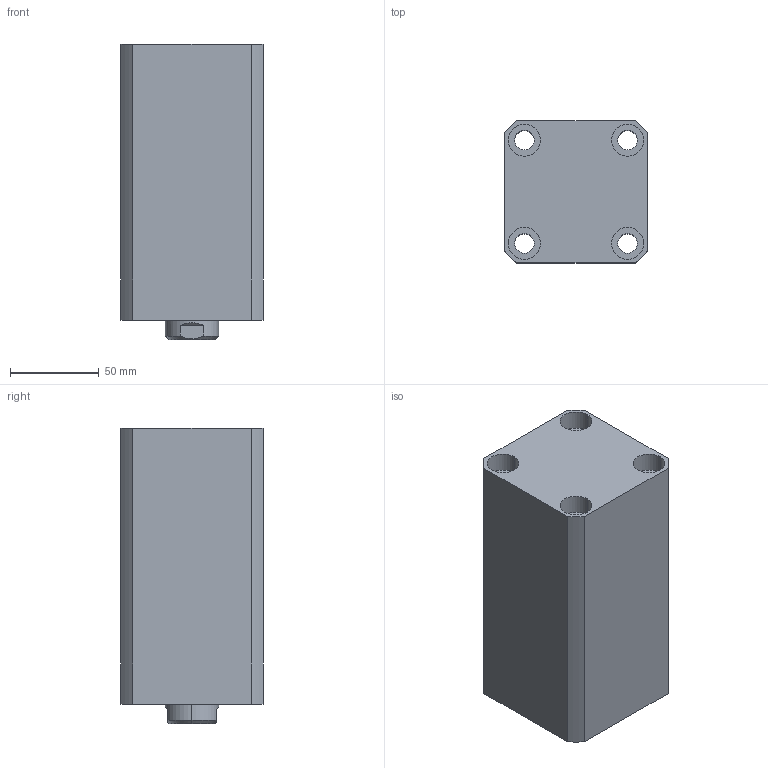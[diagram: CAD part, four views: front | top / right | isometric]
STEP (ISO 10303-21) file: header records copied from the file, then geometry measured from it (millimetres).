
FILE_DESCRIPTION (( 'STEP AP203' ), '1' );
FILE_NAME ('CHTB-SD50-95N.STEP', '2018-05-19T00:54:59', ( '' ), ( '' ), 'SwSTEP 2.0', 'SolidWorks 2015', '' );
FILE_SCHEMA (( 'CONFIG_CONTROL_DESIGN' ));
Length unit declared in the file: millimetre
Products named in the file (4): 活塞杆SD50-95N; 掛极SD50-95N; CHTB-SD50-95N; CHTM-SD50QG
Assembly tree (3 placements, depth 2):
  CHTB-SD50-95N
    掛极SD50-95N
    活塞杆SD50-95N
    CHTM-SD50QG
Bounding box: 80 x 80 x 166 mm (x, y, z)
Volume: 778349.2 mm3; surface area: 144262.4 mm2
Topology: 3 solids, 3 shells, 194 faces, 499 edges, 330 vertices
Faces by surface type: cylinder 104, plane 39, cone 21, torus 16, bspline 14
Entity records: 10789 total; most frequent: CARTESIAN_POINT 5840, ORIENTED_EDGE 986, DIRECTION 914, EDGE_CURVE 493, AXIS2_PLACEMENT_3D 383, VERTEX_POINT 330, EDGE_LOOP 233, CIRCLE 197
